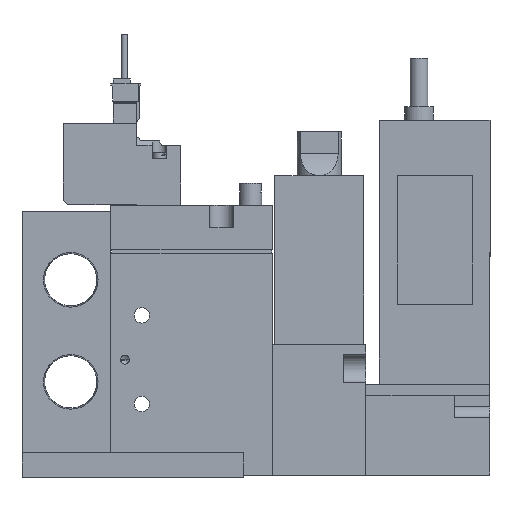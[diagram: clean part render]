
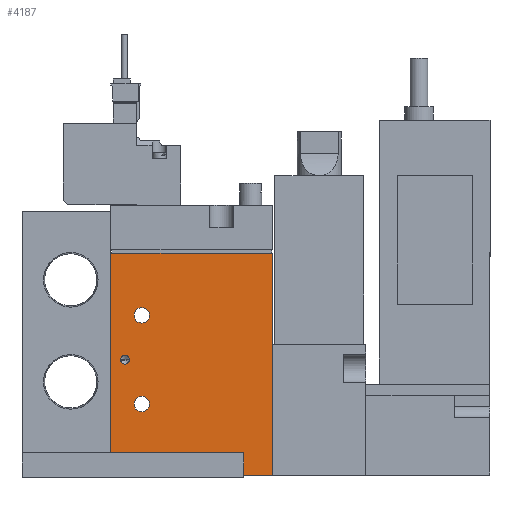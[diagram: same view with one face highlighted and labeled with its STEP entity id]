
A CAD part, left-side view. The second image highlights one B-rep face of the part: STEP entity #4187.
In plain terms, the highlighted planar face has unit normal (-1, 0, 0) as drawn and (1, 0, 0) by its records, which use the part's own axes.
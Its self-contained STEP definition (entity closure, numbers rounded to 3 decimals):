
#4187=ADVANCED_FACE('',(#6753,#6754,#6755,#6756),#6757,.F.);
#6753=FACE_BOUND('',#11180,.T.);
#6754=FACE_BOUND('',#11181,.T.);
#6755=FACE_BOUND('',#11182,.T.);
#6756=FACE_OUTER_BOUND('',#11183,.T.);
#6757=PLANE('',#11184);
#11180=EDGE_LOOP('',(#17658));
#11181=EDGE_LOOP('',(#17659));
#11182=EDGE_LOOP('',(#17660));
#11183=EDGE_LOOP('',(#17661,#17662,#17663,#17664));
#11184=AXIS2_PLACEMENT_3D('',#17665,#17666,#17667);
#17658=ORIENTED_EDGE('',*,*,#30376,.F.);
#17659=ORIENTED_EDGE('',*,*,#30377,.T.);
#17660=ORIENTED_EDGE('',*,*,#30374,.T.);
#17661=ORIENTED_EDGE('',*,*,#30365,.T.);
#17662=ORIENTED_EDGE('',*,*,#30373,.F.);
#17663=ORIENTED_EDGE('',*,*,#30358,.F.);
#17664=ORIENTED_EDGE('',*,*,#30375,.T.);
#17665=CARTESIAN_POINT('',(8.5,-19.444,50.0));
#17666=DIRECTION('',(-1.0,0.0,0.0));
#17667=DIRECTION('',(0.0,0.0,1.0));
#30358=EDGE_CURVE('',#35589,#35591,#35592,.T.);
#30365=EDGE_CURVE('',#35605,#35603,#35606,.T.);
#30373=EDGE_CURVE('',#35591,#35603,#35618,.T.);
#30374=EDGE_CURVE('',#35619,#35619,#35620,.T.);
#30375=EDGE_CURVE('',#35589,#35605,#35621,.T.);
#30376=EDGE_CURVE('',#35622,#35622,#35623,.T.);
#30377=EDGE_CURVE('',#35624,#35624,#35625,.T.);
#35589=VERTEX_POINT('',#44286);
#35591=VERTEX_POINT('',#44289);
#35592=LINE('',#44290,#44291);
#35603=VERTEX_POINT('',#44304);
#35605=VERTEX_POINT('',#44307);
#35606=LINE('',#44308,#44309);
#35618=LINE('',#44324,#44325);
#35619=VERTEX_POINT('',#44326);
#35620=CIRCLE('',#44327,1.75);
#35621=LINE('',#44328,#44329);
#35622=VERTEX_POINT('',#44330);
#35623=CIRCLE('',#44331,1.0);
#35624=VERTEX_POINT('',#44332);
#35625=CIRCLE('',#44333,1.75);
#44286=CARTESIAN_POINT('',(8.5,-19.444,50.0));
#44289=CARTESIAN_POINT('',(8.5,17.056,50.0));
#44290=CARTESIAN_POINT('',(8.5,-19.444,50.0));
#44291=VECTOR('',#54972,1.0);
#44304=CARTESIAN_POINT('',(8.5,17.056,0.0));
#44307=CARTESIAN_POINT('',(8.5,-19.444,0.0));
#44308=CARTESIAN_POINT('',(8.5,-19.444,0.0));
#44309=VECTOR('',#54985,1.0);
#44324=CARTESIAN_POINT('',(8.5,17.056,50.0));
#44325=VECTOR('',#55001,1.0);
#44326=CARTESIAN_POINT('',(8.5,-10.694,16.0));
#44327=AXIS2_PLACEMENT_3D('',#55002,#55003,#55004);
#44328=CARTESIAN_POINT('',(8.5,-19.444,50.0));
#44329=VECTOR('',#55005,1.0);
#44330=CARTESIAN_POINT('',(8.5,-17.244,26.0));
#44331=AXIS2_PLACEMENT_3D('',#55006,#55007,#55008);
#44332=CARTESIAN_POINT('',(8.5,-10.694,36.0));
#44333=AXIS2_PLACEMENT_3D('',#55009,#55010,#55011);
#54972=DIRECTION('',(0.0,1.0,0.0));
#54985=DIRECTION('',(0.0,1.0,0.0));
#55001=DIRECTION('',(0.0,0.0,-1.0));
#55002=CARTESIAN_POINT('',(8.5,-12.444,16.0));
#55003=DIRECTION('',(-1.0,0.0,0.0));
#55004=DIRECTION('',(0.0,1.0,0.0));
#55005=DIRECTION('',(0.0,0.0,-1.0));
#55006=CARTESIAN_POINT('',(8.5,-16.244,26.0));
#55007=DIRECTION('',(1.0,0.,0.0));
#55008=DIRECTION('',(0.,-1.0,0.0));
#55009=CARTESIAN_POINT('',(8.5,-12.444,36.0));
#55010=DIRECTION('',(-1.0,0.0,0.0));
#55011=DIRECTION('',(0.0,1.0,0.0));
